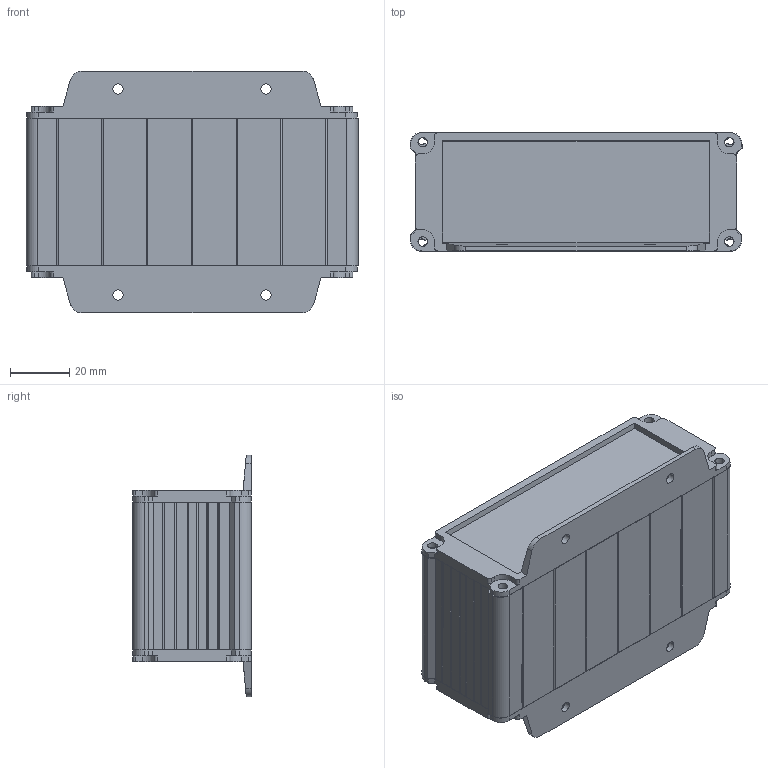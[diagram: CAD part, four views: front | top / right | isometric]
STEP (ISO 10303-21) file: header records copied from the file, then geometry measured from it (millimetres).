
FILE_DESCRIPTION (( 'STEP AP203' ), '1' );
FILE_NAME ('AL-114-5.STEP', '2021-03-26T08:36:11', ( '' ), ( '' ), 'SwSTEP 2.0', 'SolidWorks 2021', '' );
FILE_SCHEMA (( 'CONFIG_CONTROL_DESIGN' ));
Length unit declared in the file: millimetre
Products named in the file (4): AL-114_kulaklý_kapak; AL-114_100; AL-113_100; AL-114-5
Assembly tree (4 placements, depth 2):
  AL-114-5
    AL-114_100
    AL-113_100
    AL-114_kulaklý_kapak  x2
Bounding box: 112.2 x 40.2 x 81.6 mm (x, y, z)
Volume: 57077 mm3; surface area: 66938.3 mm2
Topology: 4 solids, 4 shells, 426 faces, 1230 edges, 820 vertices
Faces by surface type: plane 260, cylinder 156, bspline 10
Entity records: 10786 total; most frequent: CARTESIAN_POINT 2011, ORIENTED_EDGE 1800, DIRECTION 1702, EDGE_CURVE 900, VECTOR 668, LINE 668, VERTEX_POINT 600, AXIS2_PLACEMENT_3D 517
